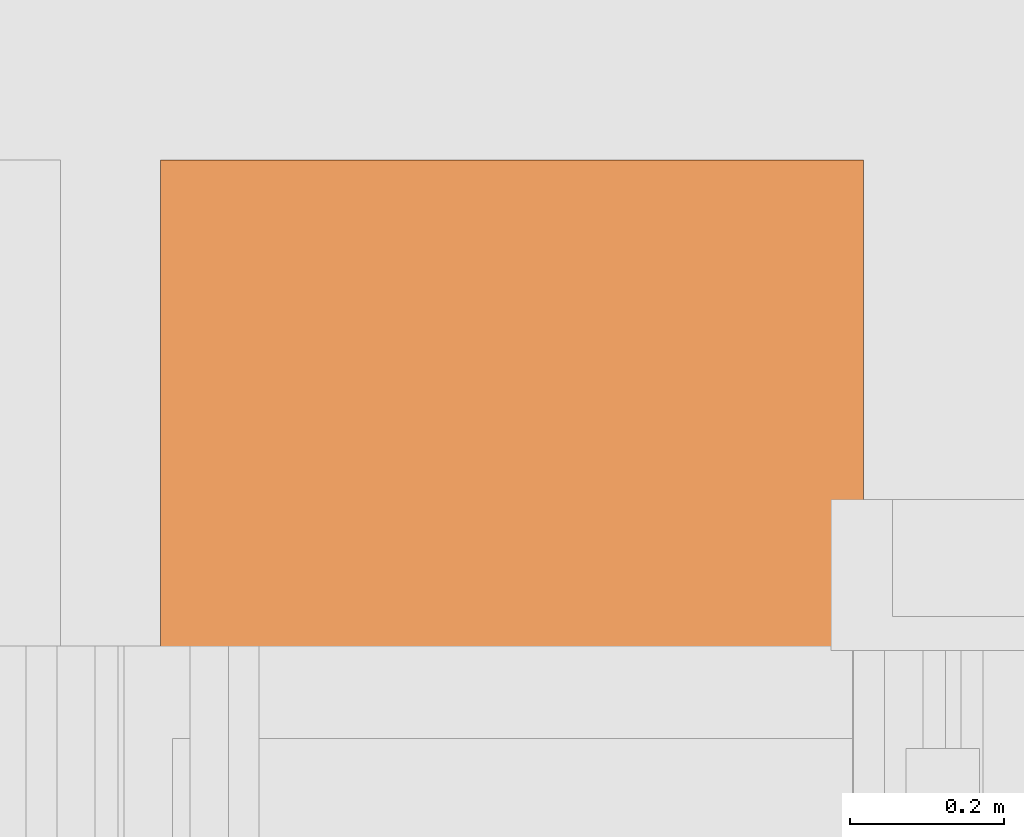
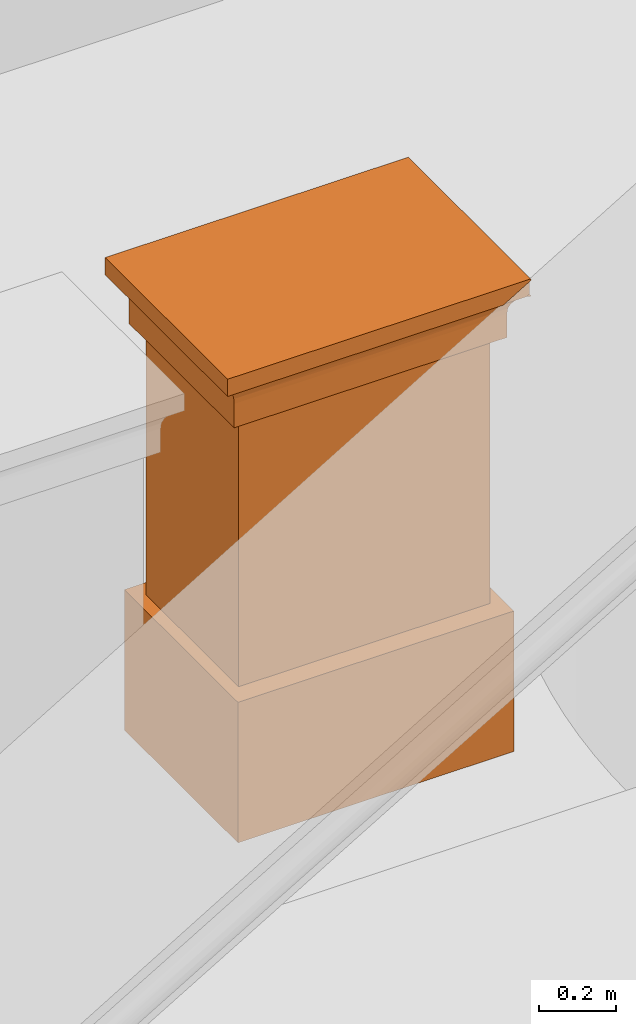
# One storey, part 30 of 44: 1 proxy.
"""IFC2X3 building model written with IfcOpenShell, lengths in metres."""

import ifcopenshell
import ifcopenshell.guid

model = None  # the IFC model being written
_history = None  # IfcOwnerHistory: only IFC2X3 demands one
_inside = {}  # id of a spatial element -> (the spatial element, [elements in it])
_under = {}  # id of a project, library or spatial element -> (it, [spatial elements below it])
_declared = {}  # id of a project -> (the project, [libraries it declares])
_typed = {}  # id of a type object -> (the type object, [elements of that type])
_made_of = {}  # id of a material, layer set ... -> (it, [elements and type objects made of it])


def new_model(schema):
    """Start an empty IFC model of exactly this schema.

    Asked for "IFC4X3", IfcOpenShell would pick the latest addendum, in which some entities
    have other attributes; the version numbers below select the first issue.
    IFC2X3 requires an IfcOwnerHistory on every rooted entity: one is made here for all.
    """
    global model, _history
    if schema == "IFC4X3":
        model = ifcopenshell.file(schema_version=(4, 3, 0, 0))
    else:
        model = ifcopenshell.file(schema=schema)
    _inside.clear()
    _under.clear()
    _declared.clear()
    _typed.clear()
    _made_of.clear()
    _history = None
    if model.schema == "IFC2X3":
        org = make("IfcOrganization", Name="unknown")
        user = make(
            "IfcPersonAndOrganization",
            ThePerson=make("IfcPerson", FamilyName="unknown"),
            TheOrganization=org,
        )
        app = make(
            "IfcApplication",
            ApplicationDeveloper=org,
            Version="unknown",
            ApplicationFullName="unknown",
            ApplicationIdentifier="unknown",
        )
        _history = make(
            "IfcOwnerHistory",
            OwningUser=user,
            OwningApplication=app,
            ChangeAction="ADDED",
            CreationDate=0,
        )
    return model


def make(cls, **values):
    """One entity of the class cls with the attributes given. An attribute that is None is left unset."""
    return model.create_entity(
        cls, **{name: value for name, value in values.items() if value is not None}
    )


def entity(cls, *values):
    """Any entity or typed value of the class cls, its attributes in the order of the schema. None: left unset."""
    e = model.create_entity(cls)
    for i, value in enumerate(values):
        if value is not None:
            e[i] = value
    return e


def rooted(cls, **values):
    """An entity with a GlobalId (a new one), such as an element, a storey or a relation."""
    return make(cls, GlobalId=ifcopenshell.guid.new(), OwnerHistory=_history, **values)


def si_unit(unit_type, name, prefix=None):
    """IfcSIUnit, for example si_unit("LENGTHUNIT", "METRE", prefix="MILLI")."""
    return make("IfcSIUnit", UnitType=unit_type, Prefix=prefix, Name=name)


def converted_unit(unit_type, name, factor, base, dimensions=None, offset=None):
    """IfcConversionBasedUnit, such as the inch: factor (a typed value) times the base unit."""
    return make(
        "IfcConversionBasedUnit"
        if offset is None
        else "IfcConversionBasedUnitWithOffset",
        ConversionOffset=offset,
        Dimensions=None
        if dimensions is None
        else entity("IfcDimensionalExponents", *dimensions),
        UnitType=unit_type,
        Name=name,
        ConversionFactor=make(
            "IfcMeasureWithUnit", ValueComponent=factor, UnitComponent=base
        ),
    )


def derived_unit(unit_type, elements):
    """IfcDerivedUnit: a product of units, each with its exponent."""
    return make(
        "IfcDerivedUnit",
        Elements=[
            make("IfcDerivedUnitElement", Unit=unit, Exponent=power)
            for unit, power in elements
        ],
        UnitType=unit_type,
    )


def assignment(units):
    """IfcUnitAssignment: the units of a project."""
    return None if units is None else make("IfcUnitAssignment", Units=units)


def point(xyz):
    """IfcCartesianPoint."""
    return None if xyz is None else make("IfcCartesianPoint", Coordinates=xyz)


def direction(xyz):
    """IfcDirection."""
    return None if xyz is None else make("IfcDirection", DirectionRatios=xyz)


def frame(location, z_axis=None, x_axis=None):
    """IfcAxis2Placement3D, a coordinate frame: its origin and axes. An axis left out is left unset."""
    return make(
        "IfcAxis2Placement3D",
        Location=point(location),
        Axis=direction(z_axis),
        RefDirection=direction(x_axis),
    )


def origin():
    """The frame at (0, 0, 0) with its axes left unset."""
    return frame((0.0, 0.0, 0.0))


def place(relative_to, where):
    """IfcLocalPlacement: puts the frame where relative to a parent placement (None: the world)."""
    return make(
        "IfcLocalPlacement", PlacementRelTo=relative_to, RelativePlacement=where
    )


def context(
    kind, dimensions, precision=None, world=None, true_north=None, identifier=None
):
    """IfcGeometricRepresentationContext, for example the 3D "Model" context."""
    return make(
        "IfcGeometricRepresentationContext",
        ContextIdentifier=identifier,
        ContextType=kind,
        CoordinateSpaceDimension=dimensions,
        Precision=precision,
        WorldCoordinateSystem=world,
        TrueNorth=true_north,
    )


def subcontext(parent, identifier, kind, view, scale=None):
    """IfcGeometricRepresentationSubContext, for example "Body" below "Model"."""
    return make(
        "IfcGeometricRepresentationSubContext",
        ContextIdentifier=identifier,
        ContextType=kind,
        ParentContext=parent,
        TargetScale=scale,
        TargetView=view,
    )


def project(units=None, contexts=None):
    """IfcProject with its units and contexts."""
    return rooted(
        "IfcProject",
        Name="project",
        RepresentationContexts=contexts,
        UnitsInContext=assignment(units),
    )


def spatial(cls, under=None, at=None, **own):
    """A site, building, storey or space (cls), placed at a placement, below another one or the project."""
    s = rooted(cls, ObjectPlacement=at, **own)
    if under is not None:
        _under.setdefault(under.id(), (under, []))[1].append(s)
    return s


def faces_of(points, faces, orient=None, outer=None):
    """IfcFace entities. A face is a list of loops; a loop is a list of indices into points, from 0.

    orient and outer hold one flag for each loop. By default every Orientation is true, the
    first loop of a face is its IfcFaceOuterBound and the others are IfcFaceBound.
    """
    made = []
    for i, loops in enumerate(faces):
        bounds = []
        for j, loop in enumerate(loops):
            is_outer = j == 0 if outer is None else outer[i][j]
            bounds.append(
                make(
                    "IfcFaceOuterBound" if is_outer else "IfcFaceBound",
                    Bound=make("IfcPolyLoop", Polygon=[points[k] for k in loop]),
                    Orientation=True if orient is None else orient[i][j],
                )
            )
        made.append(make("IfcFace", Bounds=bounds))
    return made


def faceted_brep(points, faces, orient=None, outer=None, voids=None):
    """IfcFacetedBrep: a solid bounded by flat faces; with voids (closed shells), ...WithVoids."""
    shared = [point(p) for p in points]
    hull = make("IfcClosedShell", CfsFaces=faces_of(shared, faces, orient, outer))
    if voids is None:
        return make("IfcFacetedBrep", Outer=hull)
    return make(
        "IfcFacetedBrepWithVoids",
        Outer=hull,
        Voids=[
            make(cls, CfsFaces=faces_of(shared, fs, o, b)) for cls, fs, o, b in voids
        ],
    )


def shape(context_of_items, identifier, shape_type, items):
    """IfcShapeRepresentation: the items that make up one representation, for example the "Body"."""
    return make(
        "IfcShapeRepresentation",
        ContextOfItems=context_of_items,
        RepresentationIdentifier=identifier,
        RepresentationType=shape_type,
        Items=items,
    )


def source(mapping_origin, context_of_items, identifier, shape_type, items):
    """IfcRepresentationMap: a shape defined once, which mapped items show again and again."""
    return make(
        "IfcRepresentationMap",
        MappingOrigin=mapping_origin,
        MappedRepresentation=shape(context_of_items, identifier, shape_type, items),
    )


def transform(
    local_origin,
    x_axis=None,
    y_axis=None,
    z_axis=None,
    scale=None,
    scale2=None,
    scale3=None,
    uniform=True,
):
    """IfcCartesianTransformationOperator3D, or its non-uniform kind. x_axis, y_axis, z_axis: its Axis1, 2, 3."""
    if uniform:
        return make(
            "IfcCartesianTransformationOperator3D",
            Axis1=direction(x_axis),
            Axis2=direction(y_axis),
            LocalOrigin=point(local_origin),
            Scale=scale,
            Axis3=direction(z_axis),
        )
    return make(
        "IfcCartesianTransformationOperator3DnonUniform",
        Axis1=direction(x_axis),
        Axis2=direction(y_axis),
        LocalOrigin=point(local_origin),
        Scale=scale,
        Axis3=direction(z_axis),
        Scale2=scale2,
        Scale3=scale3,
    )


def mapped(mapping_source, mapping_target):
    """IfcMappedItem: shows the shape of a source again, moved by a transform."""
    return make(
        "IfcMappedItem", MappingSource=mapping_source, MappingTarget=mapping_target
    )


def material(Name=None, Category=None):
    """IfcMaterial."""
    return make("IfcMaterial", Name=Name, Category=Category)


def made_of(thing, what):
    """Note that an element or type object is made of a material, layer set ...; save() writes the relation."""
    if what is not None:
        _made_of.setdefault(what.id(), (what, []))[1].append(thing)
    return thing


def type_object(cls, material=None, **own):
    """A type object (cls), such as IfcWallType, which elements share."""
    return made_of(rooted(cls, **own), material)


def type_shapes(of_type, sources):
    """Give a type object the sources (RepresentationMaps) that its elements show as mapped items."""
    of_type.RepresentationMaps = sources


def element(
    cls,
    number,
    at=None,
    inside=None,
    cuts=None,
    type_object=None,
    material=None,
    context=None,
    identifier="Body",
    shape_type=None,
    held_by="IfcProductDefinitionShape",
    body=None,
    shapes=None,
    **own,
):
    """One element of the class cls, such as IfcWall. Its Tag is "e" and its number.

    at: its placement. inside: the storey or other place that contains it. cuts: it is an
    opening in that element (IfcRelVoidsElement). A single representation is given by context,
    identifier, shape_type and body (its items); several are given by shapes. held_by: the class
    of the entity that holds the representations. save() writes the other relations.
    """
    e = rooted(cls, Tag="e%d" % number, ObjectPlacement=at, **own)
    if body is not None:
        shapes = [shape(context, identifier, shape_type, body)]
    if shapes is not None:
        e.Representation = make(held_by, Representations=shapes)
    if inside is not None:
        _inside.setdefault(inside.id(), (inside, []))[1].append(e)
    if cuts is not None:
        rooted(
            "IfcRelVoidsElement", RelatingBuildingElement=cuts, RelatedOpeningElement=e
        )
    if type_object is not None:
        _typed.setdefault(type_object.id(), (type_object, []))[1].append(e)
    return made_of(e, material)


def aggregate(whole, parts):
    """IfcRelAggregates: a whole, such as a stair, and the parts it consists of."""
    return rooted("IfcRelAggregates", RelatingObject=whole, RelatedObjects=parts)


def save(model, path):
    """Write the relations noted so far, then the file.

    IfcRelAggregates (storeys below a building ...), IfcRelContainedInSpatialStructure (elements
    in a storey), IfcRelDefinesByType, IfcRelAssociatesMaterial and IfcRelDeclares: one each for
    every whole, place, type object, material and project.
    """
    for whole, parts in _under.values():
        aggregate(whole, parts)
    for where, things in _inside.values():
        rooted(
            "IfcRelContainedInSpatialStructure",
            RelatedElements=things,
            RelatingStructure=where,
        )
    for kind, things in _typed.values():
        rooted("IfcRelDefinesByType", RelatedObjects=things, RelatingType=kind)
    for what, things in _made_of.values():
        rooted("IfcRelAssociatesMaterial", RelatedObjects=things, RelatingMaterial=what)
    for by, libraries in _declared.values():
        rooted("IfcRelDeclares", RelatingContext=by, RelatedDefinitions=libraries)
    model.write(path)


model = new_model("IFC2X3")

# Units and contexts
model_context = context("Model", 3, precision=1e-05, world=origin(), true_north=direction((6.12303176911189e-17, 1.0)))
body_context = subcontext(model_context, "Body", "Model", "MODEL_VIEW")
ifc_project = project(units=[si_unit("LENGTHUNIT", "METRE"), si_unit("AREAUNIT", "SQUARE_METRE"), si_unit("VOLUMEUNIT", "CUBIC_METRE"), converted_unit("PLANEANGLEUNIT", "DEGREE", entity("IfcRatioMeasure", 0.0174532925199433), si_unit("PLANEANGLEUNIT", "RADIAN"), dimensions=[0, 0, 0, 0, 0, 0, 0]), si_unit("MASSUNIT", "GRAM", prefix="KILO"), derived_unit("MASSDENSITYUNIT", [(si_unit("MASSUNIT", "GRAM", prefix="KILO"), 1), (si_unit("LENGTHUNIT", "METRE"), -3)]), si_unit("TIMEUNIT", "SECOND"), si_unit("FREQUENCYUNIT", "HERTZ"), si_unit("THERMODYNAMICTEMPERATUREUNIT", "DEGREE_CELSIUS"), derived_unit("THERMALTRANSMITTANCEUNIT", [(si_unit("MASSUNIT", "GRAM", prefix="KILO"), 1), (si_unit("THERMODYNAMICTEMPERATUREUNIT", "KELVIN"), -1), (si_unit("TIMEUNIT", "SECOND"), -3)]), derived_unit("VOLUMETRICFLOWRATEUNIT", [(si_unit("LENGTHUNIT", "METRE"), 3), (si_unit("TIMEUNIT", "SECOND"), -1)]), si_unit("ELECTRICCURRENTUNIT", "AMPERE"), si_unit("ELECTRICVOLTAGEUNIT", "VOLT"), si_unit("POWERUNIT", "WATT"), si_unit("FORCEUNIT", "NEWTON", prefix="KILO"), si_unit("ILLUMINANCEUNIT", "LUX"), si_unit("LUMINOUSFLUXUNIT", "LUMEN"), si_unit("LUMINOUSINTENSITYUNIT", "CANDELA"), derived_unit("USERDEFINED", [(si_unit("MASSUNIT", "GRAM", prefix="KILO"), -1), (si_unit("LENGTHUNIT", "METRE"), -2), (si_unit("TIMEUNIT", "SECOND"), 3), (si_unit("LUMINOUSFLUXUNIT", "LUMEN"), 1)]), derived_unit("LINEARVELOCITYUNIT", [(si_unit("LENGTHUNIT", "METRE"), 1), (si_unit("TIMEUNIT", "SECOND"), -1)]), si_unit("PRESSUREUNIT", "PASCAL"), derived_unit("USERDEFINED", [(si_unit("LENGTHUNIT", "METRE"), -2), (si_unit("MASSUNIT", "GRAM", prefix="KILO"), 1), (si_unit("TIMEUNIT", "SECOND"), -2)])], contexts=[model_context])

# Site, building, storey
site_placement = place(None, origin())
site = spatial("IfcSite", under=ifc_project, at=site_placement, Name="Default", CompositionType="ELEMENT")
building_placement = place(site_placement, origin())
building = spatial("IfcBuilding", under=site, at=building_placement, CompositionType="ELEMENT")
storey_placement = place(building_placement, origin())
storey = spatial("IfcBuildingStorey", under=building, at=storey_placement, Name="Livello 1", CompositionType="ELEMENT", Elevation=0.0)

# Proxy
ifc_material = material(Name="Piperno")
building_element_proxy_type = type_object("IfcBuildingElementProxyType", Name="Piedistallo_balaustra terrazzo", PredefinedType="NOTDEFINED", material=ifc_material)
shared_shape = source(origin(), body_context, "Body", "Brep", [
    faceted_brep([(0.0794676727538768, 0.0794676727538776, 0.44582479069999), (0.834049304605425, 0.0794676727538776, 0.445824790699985), (0.834049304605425, 0.0794676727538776, 1.29967859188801), (0.0794676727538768, 0.0794676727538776, 1.29967859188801), (0.0794676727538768, 0.561000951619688, 0.44582479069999), (0.0794676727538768, 0.561000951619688, 1.29967859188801), (0.834049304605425, 0.561000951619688, 1.29967859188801), (0.834049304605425, 0.561000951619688, 0.445824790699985)], [[[0, 1, 2, 3]], [[4, 5, 6, 7]], [[2, 1, 7, 6]], [[3, 2, 6, 5]], [[0, 3, 5, 4]], [[1, 0, 4, 7]]]),
    faceted_brep([(0.870792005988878, 0.0187500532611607, 0.0), (0.870792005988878, 0.0187500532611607, 0.44582479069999), (0.0423439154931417, 0.0187500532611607, 0.44582479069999), (0.0423439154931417, 0.0187500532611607, 0.0), (0.870792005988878, 0.609374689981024, 0.0), (0.0423439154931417, 0.609374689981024, 0.0), (0.0423439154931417, 0.609374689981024, 0.44582479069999), (0.870792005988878, 0.609374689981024, 0.44582479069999)], [[[0, 1, 2, 3]], [[4, 5, 6, 7]], [[1, 0, 4, 7]], [[2, 1, 7, 6]], [[3, 2, 6, 5]], [[0, 3, 5, 4]]]),
    faceted_brep([(0.911921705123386, 0.00159527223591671, 1.44170839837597), (0.911921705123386, 0.00159527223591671, 1.44358737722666), (0.908747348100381, 0.00159527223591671, 1.44170839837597), (0.911921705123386, 0.638873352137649, 1.44170839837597), (0.0015952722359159, 0.638873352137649, 1.44170839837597), (0.0015952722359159, 0.638873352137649, 1.49643867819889), (0.911921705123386, 0.638873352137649, 1.49643867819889), (0.911921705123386, 0.00159527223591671, 1.49643867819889), (0.911921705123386, 0.00159527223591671, 1.49122986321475), (0.911921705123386, 0.00937468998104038, 1.49122986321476), (0.911921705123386, 0.00937468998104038, 1.44358737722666), (0.0015952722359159, 0.00159527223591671, 1.49643867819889), (0.0015952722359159, 0.00159527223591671, 1.44170839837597), (0.908747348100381, 0.00937468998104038, 1.44170839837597), (0.829048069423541, 0.00937468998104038, 1.44170839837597), (0.829048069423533, 0.00159527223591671, 1.44170839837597)], [[[0, 1, 2]], [[3, 4, 5, 6]], [[3, 6, 7, 8, 9, 10, 1, 0]], [[11, 7, 6, 5]], [[12, 11, 5, 4]], [[4, 3, 0, 2, 13, 14, 15, 12]], [[9, 14, 13, 10]], [[14, 9, 8, 15]], [[10, 13, 2, 1]], [[7, 11, 12, 15, 8]]]),
    faceted_brep([(0.046908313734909, 0.593560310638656, 1.29866715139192), (0.046908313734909, 0.593560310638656, 1.3744703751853), (0.456758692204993, 0.593560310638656, 1.3744703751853), (0.866608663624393, 0.593560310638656, 1.3744703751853), (0.866608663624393, 0.593560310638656, 1.29866715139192), (0.0819082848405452, 0.55856033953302, 1.29871212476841), (0.831608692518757, 0.55856033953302, 1.29871212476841), (0.0819082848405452, 0.55856033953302, 1.44170839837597), (0.831608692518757, 0.55856033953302, 1.44170839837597), (0.0453685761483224, 0.595100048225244, 1.39169607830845), (0.547469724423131, 0.594325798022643, 1.38754596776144), (0.456758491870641, 0.617051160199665, 1.4288318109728), (0.501016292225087, 0.605457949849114, 1.41575397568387), (0.0299184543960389, 0.610550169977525, 1.42233581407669), (0.896533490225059, 0.623485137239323, 1.43381545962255), (0.883598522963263, 0.610550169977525, 1.42233581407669), (0.0395835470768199, 0.600885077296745, 1.40799420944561), (0.456758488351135, 0.59755436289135, 1.40023980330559), (0.477394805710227, 0.627932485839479, 1.43661435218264), (0.016983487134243, 0.623485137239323, 1.43381545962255), (0.622237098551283, 0.638873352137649, 1.44170839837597), (0.911921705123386, 0.638873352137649, 1.44170839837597), (0.332552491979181, 0.638873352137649, 1.44170839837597), (0.0015952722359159, 0.638873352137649, 1.44170839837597), (0.873933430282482, 0.600885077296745, 1.40799420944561), (0.86814840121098, 0.595100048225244, 1.39169607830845), (0.866608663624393, 0.0469083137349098, 1.3744703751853), (0.866608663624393, 0.0469083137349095, 1.29866715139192), (0.831608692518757, 0.081908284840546, 1.29871212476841), (0.831608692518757, 0.081908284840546, 1.44170839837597), (0.889974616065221, 0.32023431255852, 1.42872239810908), (0.90037284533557, 0.325542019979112, 1.43625922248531), (0.911921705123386, 0.29127988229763, 1.44170839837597), (0.911921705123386, 0.00159527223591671, 1.44170839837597), (0.883598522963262, 0.0299184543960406, 1.42233581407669), (0.89653349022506, 0.016983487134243, 1.43381545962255), (0.873933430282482, 0.0395835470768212, 1.40799420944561), (0.868148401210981, 0.0453685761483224, 1.39169607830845), (0.911440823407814, 0.00207615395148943, 1.44146174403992), (0.910959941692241, 0.00255703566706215, 1.44121508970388), (0.910719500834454, 0.00279747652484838, 1.44109176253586), (0.910479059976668, 0.00303791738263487, 1.44096843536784), (0.910238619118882, 0.0032783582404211, 1.44084510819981), (0.909998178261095, 0.00351879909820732, 1.44072178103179), (0.909877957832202, 0.00363901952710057, 1.44066011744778), (0.909757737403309, 0.00375923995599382, 1.44059845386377), (0.909637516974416, 0.00387946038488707, 1.44053679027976), (0.909517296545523, 0.00399968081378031, 1.44047512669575), (0.90939707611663, 0.00411990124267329, 1.44041346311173), (0.909276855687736, 0.00424012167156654, 1.44035179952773), (0.909156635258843, 0.00436034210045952, 1.44029013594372), (0.90903641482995, 0.00448056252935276, 1.4402284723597), (0.908916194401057, 0.00460078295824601, 1.44016680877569), (0.908795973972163, 0.00472100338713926, 1.44010514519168), (0.908675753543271, 0.00484122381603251, 1.44004348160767), (0.908555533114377, 0.00496144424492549, 1.43998181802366), (0.908435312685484, 0.00508166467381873, 1.43992015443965), (0.908315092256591, 0.00520188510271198, 1.43985849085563), (0.908194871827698, 0.00532210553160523, 1.43979682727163), (0.908074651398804, 0.0054423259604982, 1.43973516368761), (0.907954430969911, 0.00556254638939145, 1.4396735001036), (0.907834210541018, 0.0056827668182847, 1.43961183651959), (0.907713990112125, 0.00580298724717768, 1.43955017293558), (0.907593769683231, 0.00592320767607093, 1.43948850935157), (0.907473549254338, 0.00604342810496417, 1.43942684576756), (0.907353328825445, 0.00616364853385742, 1.43936518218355), (0.907233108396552, 0.0062838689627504, 1.43930351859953), (0.907112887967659, 0.00640408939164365, 1.43924185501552), (0.906992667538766, 0.00652430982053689, 1.43918019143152), (0.906872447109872, 0.00664453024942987, 1.4391185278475), (0.90675222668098, 0.00676475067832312, 1.43905686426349), (0.906632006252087, 0.00688497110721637, 1.43899520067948), (0.906511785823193, 0.00700519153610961, 1.43893353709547), (0.9063915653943, 0.00712541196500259, 1.43887187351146), (0.906271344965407, 0.00724563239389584, 1.43881020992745), (0.906151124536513, 0.00736585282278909, 1.43874854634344), (0.90603090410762, 0.00748607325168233, 1.43868688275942), (0.905910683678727, 0.00760629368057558, 1.43862521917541), (0.905790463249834, 0.00772651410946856, 1.4385635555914), (0.905670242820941, 0.00784673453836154, 1.43850189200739), (0.905550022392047, 0.00796695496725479, 1.43844022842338), (0.905429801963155, 0.00808717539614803, 1.43837856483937), (0.905309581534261, 0.00820739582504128, 1.43831690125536), (0.905189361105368, 0.00832761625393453, 1.43825523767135), (0.905069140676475, 0.00844783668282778, 1.43819357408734), (0.904948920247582, 0.00856805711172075, 1.43813191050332), (0.904888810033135, 0.00862816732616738, 1.43810107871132), (0.904828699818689, 0.008688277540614, 1.43807024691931), (0.904768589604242, 0.00874838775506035, 1.43803941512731), (0.904708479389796, 0.00880849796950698, 1.43800858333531), (0.904648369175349, 0.0088686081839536, 1.4379777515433), (0.904588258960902, 0.00892871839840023, 1.43794691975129), (0.904528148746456, 0.00898882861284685, 1.43791608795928), (0.904468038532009, 0.00904893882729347, 1.43788525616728), (0.904407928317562, 0.0091090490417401, 1.43785442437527), (0.904347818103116, 0.00916915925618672, 1.43782359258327), (0.904227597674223, 0.00928937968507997, 1.43776192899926), (0.626277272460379, 0.0469083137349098, 1.3744703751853), (0.336592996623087, 0.0469083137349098, 1.3744703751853), (0.046908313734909, 0.0469083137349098, 1.3744703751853), (0.046908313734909, 0.0469083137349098, 1.29866715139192), (0.0819082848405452, 0.081908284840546, 1.29871212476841), (0.0819082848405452, 0.081908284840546, 1.44170839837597), (0.907007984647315, 0.00418206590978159, 1.44067882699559), (0.906925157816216, 0.0043052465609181, 1.440629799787), (0.907422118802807, 0.00356616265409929, 1.44092396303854), (0.903805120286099, 0.00841528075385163, 1.43878297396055), (0.903709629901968, 0.00853520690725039, 1.43872645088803), (0.903041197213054, 0.00937468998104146, 1.43833078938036), (0.823395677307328, 0.00937468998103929, 1.43833078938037), (0.906096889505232, 0.00553705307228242, 1.44013952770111), (0.826422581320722, 0.00553705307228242, 1.44013952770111), (0.249678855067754, 0.00159527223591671, 1.44170839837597), (0.906179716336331, 0.0054138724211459, 1.4401885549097), (0.905141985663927, 0.00673631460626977, 1.43957429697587), (0.905046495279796, 0.00685624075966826, 1.43951777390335), (0.907339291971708, 0.00368934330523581, 1.44087493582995), (0.456758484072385, 0.0178076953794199, 1.43324285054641), (0.016983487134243, 0.0169834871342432, 1.43381545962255), (0.0015952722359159, 0.00159527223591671, 1.44170839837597), (0.90308894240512, 0.00931472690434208, 1.43835905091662), (0.903136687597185, 0.0092547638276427, 1.43838731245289), (0.456758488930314, 0.034988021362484, 1.41578720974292), (0.906759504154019, 0.00455160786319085, 1.44053174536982), (0.906676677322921, 0.00467478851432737, 1.44048271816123), (0.0453685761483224, 0.0453685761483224, 1.39169607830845), (0.906001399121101, 0.00565697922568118, 1.44008300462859), (0.903232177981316, 0.00913483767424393, 1.43844383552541), (0.90318443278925, 0.00919480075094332, 1.43841557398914), (0.421090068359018, 0.0429208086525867, 1.40022153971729), (0.906428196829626, 0.00504433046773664, 1.44033563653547), (0.906345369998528, 0.00516751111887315, 1.44028660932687), (0.340599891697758, 0.027180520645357, 1.42528534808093), (0.908084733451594, 0.00258071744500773, 1.44131618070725), (0.48143521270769, 0.0462247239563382, 1.38700328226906), (0.0395835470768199, 0.0395835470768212, 1.40799420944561), (0.904664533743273, 0.00733594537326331, 1.43929168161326), (0.904569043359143, 0.0074558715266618, 1.43923515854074), (0.904473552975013, 0.00757579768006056, 1.43917863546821), (0.0299184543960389, 0.0299184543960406, 1.42233581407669), (0.903327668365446, 0.00901491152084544, 1.43850035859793), (0.903423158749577, 0.00889498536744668, 1.43855688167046), (0.903375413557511, 0.00895494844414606, 1.43852862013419), (0.904187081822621, 0.00793557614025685, 1.43900906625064), (0.90409159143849, 0.00805550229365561, 1.43895254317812), (0.906593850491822, 0.00479796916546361, 1.44043369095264), (0.906511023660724, 0.00492114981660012, 1.44038466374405), (0.903518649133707, 0.00877505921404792, 1.43861340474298), (0.903279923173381, 0.00907487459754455, 1.43847209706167), (0.906262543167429, 0.00529069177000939, 1.44023758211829), (0.905332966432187, 0.00649646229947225, 1.43968734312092), (0.904282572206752, 0.00781564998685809, 1.43906558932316), (0.903614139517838, 0.00865513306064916, 1.4386699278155), (0.907090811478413, 0.00405888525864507, 1.44072785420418), (0.90571492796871, 0.0060167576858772, 1.43991343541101), (0.904378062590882, 0.00769572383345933, 1.43912211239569), (0.907173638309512, 0.00393570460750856, 1.44077688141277), (0.905523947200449, 0.00625660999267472, 1.43980038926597), (0.908416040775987, 0.00208799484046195, 1.44151228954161), (0.90725646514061, 0.00381252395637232, 1.44082590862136), (0.90399610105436, 0.00817542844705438, 1.4388960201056), (0.903900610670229, 0.00829535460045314, 1.43883949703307), (0.90590590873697, 0.00577690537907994, 1.44002648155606), (0.905810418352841, 0.0058968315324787, 1.43996995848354), (0.905237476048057, 0.00661638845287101, 1.4396308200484), (0.907919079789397, 0.00282707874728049, 1.44121812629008), (0.906842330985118, 0.00442842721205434, 1.44058077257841), (0.905619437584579, 0.00613668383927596, 1.43985691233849), (0.904951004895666, 0.00697616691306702, 1.43946125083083), (0.904855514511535, 0.00709609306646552, 1.4394047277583), (0.907753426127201, 0.00307344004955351, 1.4411200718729), (0.907587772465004, 0.00331980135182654, 1.44102201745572), (0.905428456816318, 0.00637653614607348, 1.43974386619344), (0.904760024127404, 0.00721601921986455, 1.43934820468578), (0.908747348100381, 0.00159527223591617, 1.44170839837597), (0.829048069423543, 0.00159527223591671, 1.44170839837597), (0.908747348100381, 0.00937468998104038, 1.44170839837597), (0.0015952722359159, 0.349188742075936, 1.44170839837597), (0.829048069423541, 0.00937468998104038, 1.44170839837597), (0.0235423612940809, 0.320234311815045, 1.42872239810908), (0.0131441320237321, 0.314926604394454, 1.43625922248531)], [[[0, 1, 2, 3, 4]], [[5, 0, 4, 6]], [[7, 5, 6, 8]], [[9, 10, 2]], [[11, 12, 13]], [[14, 15, 11]], [[16, 12, 17]], [[12, 11, 15]], [[18, 11, 19]], [[20, 21, 14]], [[22, 19, 23]], [[12, 15, 24]], [[16, 13, 12]], [[17, 10, 9]], [[25, 3, 10]], [[9, 2, 1]], [[17, 9, 16]], [[14, 18, 20]], [[25, 17, 24]], [[17, 25, 10]], [[11, 13, 19]], [[22, 18, 19]], [[24, 17, 12]], [[11, 18, 14]], [[22, 20, 18]], [[2, 10, 3]], [[4, 3, 26, 27]], [[6, 4, 27, 28]], [[8, 6, 28, 29]], [[30, 15, 14]], [[31, 21, 32, 33]], [[14, 31, 30]], [[34, 30, 35]], [[34, 36, 24, 15]], [[21, 31, 14]], [[30, 31, 35]], [[37, 26, 3, 25]], [[36, 37, 25, 24]], [[15, 30, 34]], [[31, 33, 38, 39, 40, 41, 42, 43, 44, 45, 46, 47, 48, 49, 50, 51, 52, 53, 54, 55, 56, 57, 58, 59, 60, 61, 62, 63, 64, 65, 66, 67, 68, 69, 70, 71, 72, 73, 74, 75, 76, 77, 78, 79, 80, 81, 82, 83, 84, 85, 86, 87, 88, 89, 90, 91, 92, 93, 94, 95, 96, 35]], [[27, 26, 97, 98, 99, 100]], [[28, 27, 100, 101]], [[29, 28, 101, 102]], [[103, 104, 48]], [[42, 105, 43]], [[82, 106, 107]], [[108, 96, 95, 94]], [[96, 109, 35]], [[59, 58, 110]], [[111, 112, 109]], [[110, 58, 113]], [[114, 115, 69]], [[44, 43, 116]], [[117, 34, 35]], [[109, 117, 35]], [[96, 108, 109]], [[118, 112, 119]], [[108, 94, 120]], [[93, 92, 121]], [[122, 36, 34]], [[123, 124, 51]], [[26, 37, 97]], [[125, 99, 98]], [[110, 126, 59]], [[127, 128, 91]], [[122, 129, 36]], [[130, 131, 55]], [[118, 132, 117]], [[39, 38, 133]], [[98, 97, 134]], [[125, 129, 135]], [[74, 136, 137, 138]], [[139, 135, 122]], [[140, 89, 88]], [[118, 117, 112]], [[87, 141, 142]], [[78, 143, 144]], [[121, 120, 93]], [[145, 146, 53]], [[138, 75, 74]], [[107, 83, 82]], [[85, 84, 147, 86]], [[140, 148, 89]], [[93, 120, 94]], [[51, 50, 123]], [[57, 56, 149]], [[67, 66, 150]], [[77, 76, 151]], [[107, 152, 83]], [[89, 148, 90]], [[149, 113, 57]], [[47, 46, 153]], [[55, 54, 130]], [[63, 62, 154]], [[138, 155, 75]], [[57, 113, 58]], [[55, 131, 56]], [[51, 124, 52]], [[59, 126, 60]], [[53, 52, 145]], [[91, 90, 127]], [[144, 79, 78]], [[46, 45, 156]], [[149, 56, 131]], [[65, 64, 157]], [[38, 33, 158]], [[152, 147, 84]], [[130, 54, 146]], [[145, 52, 124]], [[127, 90, 148]], [[155, 151, 76]], [[45, 44, 159]], [[84, 83, 152]], [[121, 92, 128]], [[160, 161, 80]], [[153, 103, 47]], [[162, 163, 61]], [[150, 164, 67]], [[40, 39, 165]], [[87, 86, 141]], [[105, 116, 43]], [[76, 75, 155]], [[78, 77, 143]], [[159, 156, 45]], [[141, 86, 147]], [[61, 60, 162]], [[82, 81, 106]], [[104, 166, 49]], [[154, 167, 63]], [[168, 169, 71]], [[170, 171, 41]], [[140, 88, 142]], [[162, 60, 126]], [[154, 62, 163]], [[150, 66, 172]], [[50, 49, 166]], [[116, 159, 44]], [[41, 40, 170]], [[81, 80, 161]], [[73, 72, 173]], [[61, 163, 62]], [[49, 48, 104]], [[53, 146, 54]], [[156, 153, 46]], [[151, 143, 77]], [[91, 128, 92]], [[87, 142, 88]], [[157, 172, 65]], [[166, 123, 50]], [[173, 136, 73]], [[42, 41, 171]], [[161, 106, 81]], [[144, 160, 79]], [[71, 70, 168]], [[65, 172, 66]], [[63, 167, 64]], [[73, 136, 74]], [[71, 169, 72]], [[171, 105, 42]], [[67, 164, 68]], [[80, 79, 160]], [[174, 158, 33]], [[111, 175, 112]], [[173, 72, 169]], [[157, 64, 167]], [[133, 165, 39]], [[69, 68, 114]], [[48, 47, 103]], [[114, 68, 164]], [[168, 70, 115]], [[165, 170, 40]], [[158, 133, 38]], [[69, 115, 70]], [[109, 112, 117]], [[132, 122, 34]], [[36, 129, 37]], [[139, 122, 132]], [[129, 122, 135]], [[129, 125, 134]], [[97, 37, 134]], [[98, 134, 125]], [[129, 134, 37]], [[139, 132, 118]], [[117, 132, 34]], [[100, 99, 1, 0]], [[101, 100, 0, 5]], [[102, 101, 5, 7]], [[33, 176, 174]], [[176, 33, 32]], [[176, 32, 21]], [[8, 176, 21]], [[8, 21, 7]], [[7, 21, 20]], [[7, 20, 22]], [[7, 22, 23]], [[7, 23, 177]], [[7, 177, 119]], [[7, 119, 102]], [[102, 119, 112]], [[102, 112, 175]], [[102, 175, 178]], [[176, 29, 178]], [[29, 102, 178]], [[176, 8, 29]], [[179, 139, 118]], [[180, 119, 177, 23]], [[118, 180, 179]], [[13, 179, 19]], [[13, 16, 135, 139]], [[119, 180, 118]], [[179, 180, 19]], [[9, 1, 99, 125]], [[16, 9, 125, 135]], [[139, 179, 13]], [[180, 23, 19]], [[108, 176, 178, 109]], [[178, 175, 111, 109]], [[176, 108, 120, 121, 128, 127, 148, 140, 142, 141, 147, 152, 107, 106, 161, 160, 144, 143, 151, 155, 138, 137, 136, 173, 169, 168, 115, 114, 164, 150, 172, 157, 167, 154, 163, 162, 126, 110, 113, 149, 131, 130, 146, 145, 124, 123, 166, 104, 103, 153, 156, 159, 116, 105, 171, 170, 165, 133, 158, 174]]]),
])
type_shapes(building_element_proxy_type, [shared_shape])
proxy_placement = place(storey_placement, frame((-3.82408539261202, 1.25399804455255, 23.294418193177)))
element("IfcBuildingElementProxy", 1, at=proxy_placement, inside=storey, type_object=building_element_proxy_type, material=ifc_material, Name="Piedistallo_balaustra terrazzo:Piedistallo_balaustra terrazzo", ObjectType="Piedistallo_balaustra terrazzo", context=body_context, shape_type="MappedRepresentation", body=[
    mapped(shared_shape, transform((0.0, 0.0, 0.0), scale=1.0)),
])

save(model, "model.ifc")
